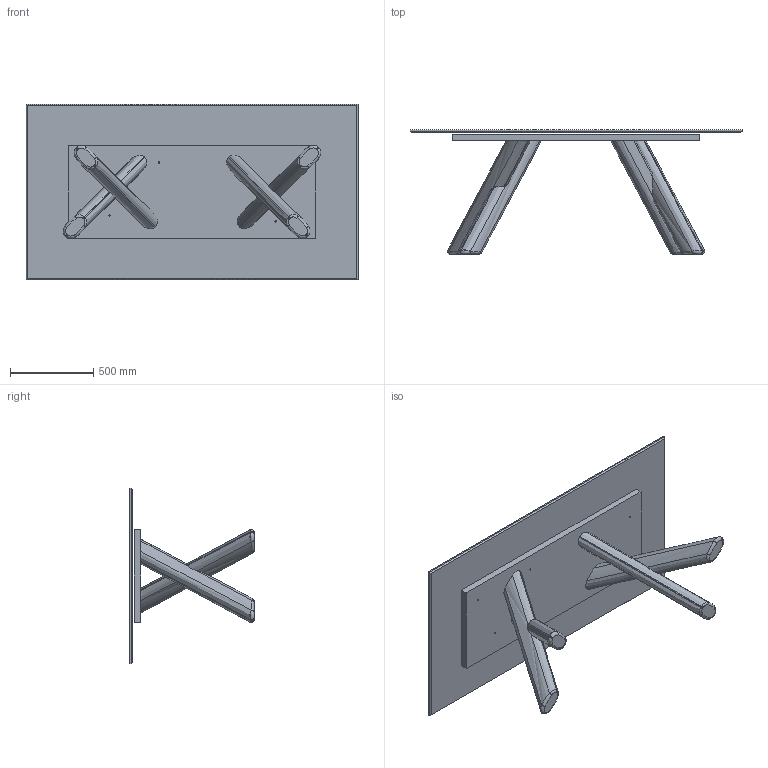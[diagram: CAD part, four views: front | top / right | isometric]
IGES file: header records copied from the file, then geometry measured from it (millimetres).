
Start section: SolidWorks IGES file using analytic representation for surfaces
Global section: file name: Y:\eforma\TECNICO\SOLIDWORKS\E-FORMA\1-TAVOLI\CANOVA\08 modelli 3D web\CN21C_CANOVA_top ceramica 200x106x75h.IGS; native system: SolidWorks 2022; preprocessor: SolidWorks 2022; author: eforma.tech; date: 250415.090342; units: millimetre
Bounding box: 2000 x 748 x 1060 mm (x, y, z)
Volume: 105203846.6 mm3; surface area: 7602367.7 mm2
Topology: 6 solids, 6 shells, 164 faces, 394 edges, 248 vertices
Faces by surface type: revolution 98, bspline 36, plane 30
